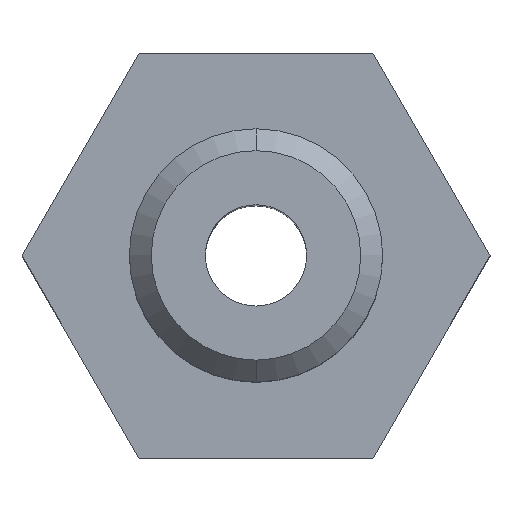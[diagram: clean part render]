
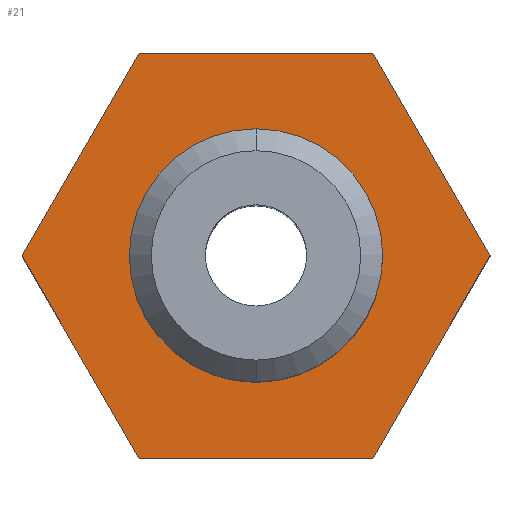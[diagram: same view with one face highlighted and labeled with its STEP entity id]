
A CAD part, top view. The second image highlights one B-rep face of the part: STEP entity #21.
In plain terms, the highlighted planar face has unit normal (0, 0, 1).
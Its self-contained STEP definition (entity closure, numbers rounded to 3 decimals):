
#10 = EDGE_CURVE ( 'NONE', #1136, #1198, #405, .T. ) ;
#19 = VERTEX_POINT ( 'NONE', #547 ) ;
#21 = ADVANCED_FACE ( 'NONE', ( #1045, #49 ), #478, .T. ) ;
#33 = CARTESIAN_POINT ( 'NONE',  ( 3.464, -2., 14. ) ) ;
#49 = FACE_BOUND ( 'NONE', #1043, .T. ) ;
#58 = DIRECTION ( 'NONE',  ( -0.5, -0.866, 0. ) ) ;
#60 = EDGE_CURVE ( 'NONE', #812, #522, #767, .T. ) ;
#63 = ORIENTED_EDGE ( 'NONE', *, *, #1189, .F. ) ;
#79 = DIRECTION ( 'NONE',  ( 0.5, -0.866, 0. ) ) ;
#91 = EDGE_CURVE ( 'NONE', #522, #515, #705, .T. ) ;
#106 = ORIENTED_EDGE ( 'NONE', *, *, #60, .F. ) ;
#132 = AXIS2_PLACEMENT_3D ( 'NONE', #627, #303, #412 ) ;
#133 = ORIENTED_EDGE ( 'NONE', *, *, #899, .F. ) ;
#189 = LINE ( 'NONE', #740, #316 ) ;
#201 = ORIENTED_EDGE ( 'NONE', *, *, #10, .T. ) ;
#216 = VECTOR ( 'NONE', #850, 1000. ) ;
#256 = EDGE_LOOP ( 'NONE', ( #264, #1011, #616, #106, #133, #63 ) ) ;
#264 = ORIENTED_EDGE ( 'NONE', *, *, #471, .F. ) ;
#269 = CARTESIAN_POINT ( 'NONE',  ( 0., 0., 14. ) ) ;
#303 = DIRECTION ( 'NONE',  ( 0., 0., -1. ) ) ;
#308 = CARTESIAN_POINT ( 'NONE',  ( 0., 4., 14. ) ) ;
#316 = VECTOR ( 'NONE', #891, 1000. ) ;
#320 = CARTESIAN_POINT ( 'NONE',  ( 3.464, 2., 14. ) ) ;
#332 = LINE ( 'NONE', #320, #873 ) ;
#350 = DIRECTION ( 'NONE',  ( 0., 1., 0. ) ) ;
#400 = CARTESIAN_POINT ( 'NONE',  ( 0., 2.5, 14. ) ) ;
#405 = CIRCLE ( 'NONE', #601, 2.5 ) ;
#412 = DIRECTION ( 'NONE',  ( 0., 1., 0. ) ) ;
#471 = EDGE_CURVE ( 'NONE', #674, #709, #974, .T. ) ;
#478 = PLANE ( 'NONE',  #1107 ) ;
#515 = VERTEX_POINT ( 'NONE', #854 ) ;
#522 = VERTEX_POINT ( 'NONE', #846 ) ;
#529 = CARTESIAN_POINT ( 'NONE',  ( 3., 0., 14. ) ) ;
#547 = CARTESIAN_POINT ( 'NONE',  ( 4.619, 0., 14. ) ) ;
#553 = CARTESIAN_POINT ( 'NONE',  ( -2.309, 4., 14. ) ) ;
#560 = CIRCLE ( 'NONE', #132, 2.5 ) ;
#567 = DIRECTION ( 'NONE',  ( 0., 0., 1. ) ) ;
#571 = DIRECTION ( 'NONE',  ( 1., 0., 0. ) ) ;
#599 = DIRECTION ( 'NONE',  ( 1., 0., 0. ) ) ;
#601 = AXIS2_PLACEMENT_3D ( 'NONE', #269, #830, #350 ) ;
#616 = ORIENTED_EDGE ( 'NONE', *, *, #91, .F. ) ;
#627 = CARTESIAN_POINT ( 'NONE',  ( 0., 0., 14. ) ) ;
#674 = VERTEX_POINT ( 'NONE', #553 ) ;
#682 = CARTESIAN_POINT ( 'NONE',  ( 2.309, -4., 14. ) ) ;
#705 = LINE ( 'NONE', #933, #1171 ) ;
#709 = VERTEX_POINT ( 'NONE', #1228 ) ;
#716 = VECTOR ( 'NONE', #58, 1000. ) ;
#727 = LINE ( 'NONE', #33, #716 ) ;
#740 = CARTESIAN_POINT ( 'NONE',  ( -3.464, 2., 14. ) ) ;
#767 = LINE ( 'NONE', #930, #216 ) ;
#812 = VERTEX_POINT ( 'NONE', #682 ) ;
#830 = DIRECTION ( 'NONE',  ( 0., 0., -1. ) ) ;
#840 = EDGE_CURVE ( 'NONE', #1198, #1136, #560, .T. ) ;
#846 = CARTESIAN_POINT ( 'NONE',  ( -2.309, -4., 14. ) ) ;
#850 = DIRECTION ( 'NONE',  ( -1., 0., 0. ) ) ;
#854 = CARTESIAN_POINT ( 'NONE',  ( -4.619, 0., 14. ) ) ;
#873 = VECTOR ( 'NONE', #79, 1000. ) ;
#886 = VECTOR ( 'NONE', #599, 1000. ) ;
#891 = DIRECTION ( 'NONE',  ( 0.5, 0.866, 0. ) ) ;
#899 = EDGE_CURVE ( 'NONE', #19, #812, #727, .T. ) ;
#911 = DIRECTION ( 'NONE',  ( -0.5, 0.866, 0. ) ) ;
#930 = CARTESIAN_POINT ( 'NONE',  ( 0., -4., 14. ) ) ;
#933 = CARTESIAN_POINT ( 'NONE',  ( -3.464, -2., 14. ) ) ;
#961 = EDGE_CURVE ( 'NONE', #515, #674, #189, .T. ) ;
#974 = LINE ( 'NONE', #308, #886 ) ;
#977 = CARTESIAN_POINT ( 'NONE',  ( 0., -2.5, 14. ) ) ;
#1002 = ORIENTED_EDGE ( 'NONE', *, *, #840, .T. ) ;
#1011 = ORIENTED_EDGE ( 'NONE', *, *, #961, .F. ) ;
#1043 = EDGE_LOOP ( 'NONE', ( #201, #1002 ) ) ;
#1045 = FACE_OUTER_BOUND ( 'NONE', #256, .T. ) ;
#1107 = AXIS2_PLACEMENT_3D ( 'NONE', #529, #567, #571 ) ;
#1136 = VERTEX_POINT ( 'NONE', #400 ) ;
#1171 = VECTOR ( 'NONE', #911, 1000. ) ;
#1189 = EDGE_CURVE ( 'NONE', #709, #19, #332, .T. ) ;
#1198 = VERTEX_POINT ( 'NONE', #977 ) ;
#1228 = CARTESIAN_POINT ( 'NONE',  ( 2.309, 4., 14. ) ) ;
